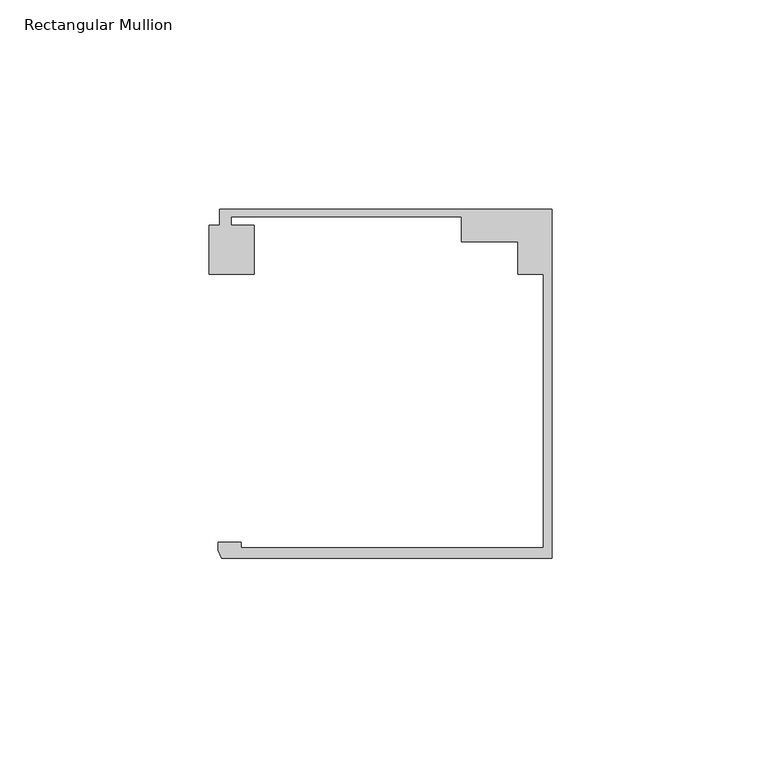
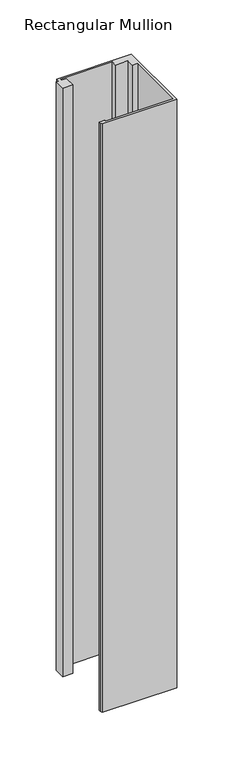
"""IFC4 building model written with IfcOpenShell, lengths in millimetres: member geometry, Rectangular Mullion : Danpal_Airpt_End-Mullion_B2."""

from ifc_helpers import new_model, si_unit, frame, origin, place, context, project, spatial, polyline, outline, extrude, source, transform, mapped, element, save


def rectangular_mullion_c68886c0(model_context):
    return source(origin(), model_context, "Body", "SweptSolid", [
        extrude(outline(polyline([(39.9953159, -74.9940824), (39.9953159, -9.7188964), (33.895316, -9.7188964), (33.895316, -1.8818054), (20.4474994, -1.8818054), (20.4474994, 4.0051512), (-34.6525006, 4.0051512), (-34.6525006, 2.0051513), (-29.1480372, 2.0051513), (-29.1480372, -9.6875514), (-39.8639164, -9.6875514), (-39.8639164, 2.0051513), (-37.3521714, 2.0051513), (-37.3521714, 5.8051514), (41.995316, 5.8051514), (41.995316, -77.4940825), (-36.8561849, -77.4940825), (-37.7831446, -75.5472671), (-37.7831446, -73.6940824), (-32.2521508, -73.6940824), (-32.2521508, -74.9940824), (39.9953159, -74.9940824)])), frame((0.0, 0.0, -661.9176464), z_axis=(0.0, 0.0, 1.0), x_axis=(1.0, 0.0, 0.0)), (0.0, 0.0, 1.0), 661.9176464),
    ])


if __name__ == "__main__":
    model = new_model("IFC4")
    model_context = context("Model", 3, world=origin())
    ifc_project = project(units=[si_unit("LENGTHUNIT", "METRE", prefix="MILLI")], contexts=[model_context])
    site = spatial("IfcSite", under=ifc_project)
    building = spatial("IfcBuilding", under=site)
    placement = place(None, origin())
    rectangular_mullion_shape = rectangular_mullion_c68886c0(model_context)
    element("IfcMember", 1, ObjectType="Rectangular Mullion : Danpal_Airpt_End-Mullion_B2", at=placement, inside=building, context=model_context, shape_type="MappedRepresentation", body=[
        mapped(rectangular_mullion_shape, transform((0.0, 0.0, 0.0), x_axis=(1.0, 0.0, 0.0), y_axis=(0.0, 1.0, 0.0), z_axis=(0.0, 0.0, 1.0))),
    ])
    save(model, "model.ifc")
